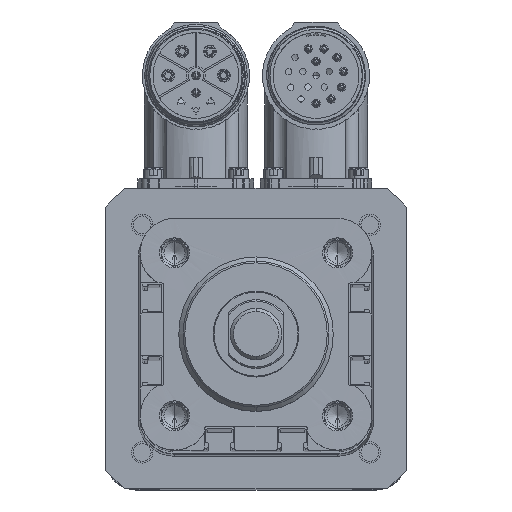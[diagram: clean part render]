
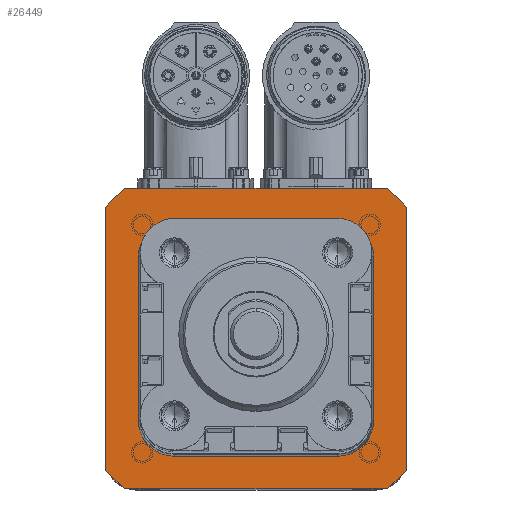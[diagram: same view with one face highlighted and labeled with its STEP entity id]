
A CAD part, top view. The second image highlights one B-rep face of the part: STEP entity #26449.
In plain terms, the highlighted planar face has unit normal (0, 0, 1) as drawn and (0, 0, -1) by its records, which use the part's own axes.
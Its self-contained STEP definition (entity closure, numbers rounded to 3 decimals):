
#24850=CARTESIAN_POINT('',(0.,0.,-1.));
#24851=DIRECTION('',(0.,0.,1.));
#24852=DIRECTION('',(0.,1.,0.));
#24853=AXIS2_PLACEMENT_3D('',#24850,#24851,#24852);
#24855=CARTESIAN_POINT('',(0.,0.,-1.));
#24856=DIRECTION('',(0.,0.,-1.));
#24857=DIRECTION('',(0.,1.,0.));
#24858=AXIS2_PLACEMENT_3D('',#24855,#24856,#24857);
#24860=CARTESIAN_POINT('',(0.,0.,-1.));
#24861=DIRECTION('',(0.,0.,1.));
#24862=DIRECTION('',(-0.658,0.753,0.));
#24863=AXIS2_PLACEMENT_3D('',#24860,#24861,#24862);
#24865=DIRECTION('',(0.,1.,0.));
#24866=VECTOR('',#24865,61.229);
#24867=CARTESIAN_POINT('',(-35.,-30.615,-1.));
#24868=LINE('',#24867,#24866);
#24869=CARTESIAN_POINT('',(0.,0.,-1.));
#24870=DIRECTION('',(0.,0.,1.));
#24871=DIRECTION('',(-0.753,-0.658,0.));
#24872=AXIS2_PLACEMENT_3D('',#24869,#24870,#24871);
#24874=DIRECTION('',(-1.,0.,0.));
#24875=VECTOR('',#24874,61.229);
#24876=CARTESIAN_POINT('',(30.615,-35.,-1.));
#24877=LINE('',#24876,#24875);
#24878=CARTESIAN_POINT('',(0.,0.,-1.));
#24879=DIRECTION('',(0.,0.,1.));
#24880=DIRECTION('',(0.658,-0.753,0.));
#24881=AXIS2_PLACEMENT_3D('',#24878,#24879,#24880);
#24883=DIRECTION('',(0.,-1.,0.));
#24884=VECTOR('',#24883,61.229);
#24885=CARTESIAN_POINT('',(35.,30.615,-1.));
#24886=LINE('',#24885,#24884);
#24887=CARTESIAN_POINT('',(0.,0.,-1.));
#24888=DIRECTION('',(0.,0.,1.));
#24889=DIRECTION('',(0.753,0.658,0.));
#24890=AXIS2_PLACEMENT_3D('',#24887,#24888,#24889);
#24892=DIRECTION('',(1.,0.,0.));
#24893=VECTOR('',#24892,61.229);
#24894=CARTESIAN_POINT('',(-30.615,35.,-1.));
#24895=LINE('',#24894,#24893);
#25986=CARTESIAN_POINT('',(0.,22.5,-1.));
#25987=VERTEX_POINT('',#25986);
#26002=CARTESIAN_POINT('',(0.,-22.5,-1.));
#26003=VERTEX_POINT('',#26002);
#26004=CARTESIAN_POINT('',(-30.615,35.,-1.));
#26005=CARTESIAN_POINT('',(-35.,30.615,-1.));
#26006=VERTEX_POINT('',#26004);
#26007=VERTEX_POINT('',#26005);
#26008=CARTESIAN_POINT('',(30.615,35.,-1.));
#26009=VERTEX_POINT('',#26008);
#26010=CARTESIAN_POINT('',(35.,30.615,-1.));
#26011=VERTEX_POINT('',#26010);
#26012=CARTESIAN_POINT('',(35.,-30.615,-1.));
#26013=VERTEX_POINT('',#26012);
#26014=CARTESIAN_POINT('',(30.615,-35.,-1.));
#26015=VERTEX_POINT('',#26014);
#26016=CARTESIAN_POINT('',(-30.615,-35.,-1.));
#26017=VERTEX_POINT('',#26016);
#26018=CARTESIAN_POINT('',(-35.,-30.615,-1.));
#26019=VERTEX_POINT('',#26018);
#26421=CARTESIAN_POINT('',(0.,0.,-1.));
#26422=DIRECTION('',(0.,0.,1.));
#26423=DIRECTION('',(0.,1.,0.));
#26424=AXIS2_PLACEMENT_3D('',#26421,#26422,#26423);
#26425=PLANE('',#26424);
#26426=ORIENTED_EDGE('',*,*,#26411,.T.);
#26428=ORIENTED_EDGE('',*,*,#26427,.F.);
#26430=ORIENTED_EDGE('',*,*,#26429,.T.);
#26432=ORIENTED_EDGE('',*,*,#26431,.F.);
#26434=ORIENTED_EDGE('',*,*,#26433,.T.);
#26436=ORIENTED_EDGE('',*,*,#26435,.F.);
#26438=ORIENTED_EDGE('',*,*,#26437,.T.);
#26440=ORIENTED_EDGE('',*,*,#26439,.F.);
#26441=EDGE_LOOP('',(#26426,#26428,#26430,#26432,#26434,#26436,#26438,#26440));
#26442=FACE_OUTER_BOUND('',#26441,.F.);
#26444=ORIENTED_EDGE('',*,*,#26443,.F.);
#26446=ORIENTED_EDGE('',*,*,#26445,.T.);
#26447=EDGE_LOOP('',(#26444,#26446));
#26448=FACE_BOUND('',#26447,.F.);
#26449=ADVANCED_FACE('',(#26442,#26448),#26425,.F.);
#24854=CIRCLE('',#24853,22.5);
#24859=CIRCLE('',#24858,22.5);
#24864=CIRCLE('',#24863,46.5);
#24873=CIRCLE('',#24872,46.5);
#24882=CIRCLE('',#24881,46.5);
#24891=CIRCLE('',#24890,46.5);
#26411=EDGE_CURVE('',#26006,#26007,#24864,.T.);
#26427=EDGE_CURVE('',#26019,#26007,#24868,.T.);
#26429=EDGE_CURVE('',#26019,#26017,#24873,.T.);
#26431=EDGE_CURVE('',#26015,#26017,#24877,.T.);
#26433=EDGE_CURVE('',#26015,#26013,#24882,.T.);
#26435=EDGE_CURVE('',#26011,#26013,#24886,.T.);
#26437=EDGE_CURVE('',#26011,#26009,#24891,.T.);
#26439=EDGE_CURVE('',#26006,#26009,#24895,.T.);
#26443=EDGE_CURVE('',#25987,#26003,#24854,.T.);
#26445=EDGE_CURVE('',#25987,#26003,#24859,.T.);
